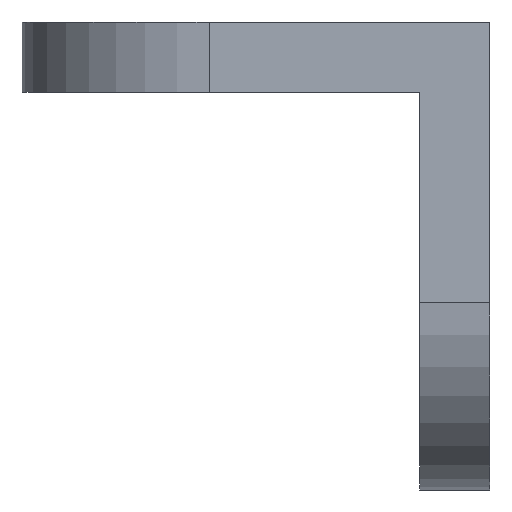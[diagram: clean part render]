
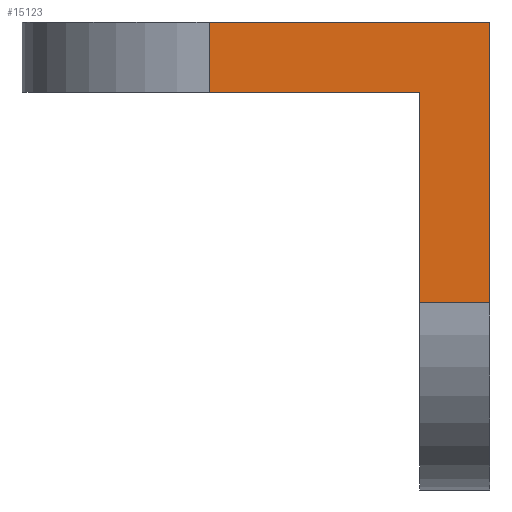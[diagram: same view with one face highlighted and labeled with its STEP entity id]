
A CAD part, left-side view. The second image highlights one B-rep face of the part: STEP entity #15123.
In plain terms, the highlighted planar face has unit normal (-1, 0, 0).
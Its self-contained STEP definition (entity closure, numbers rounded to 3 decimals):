
#149 = VERTEX_POINT ( 'NONE', #18207 ) ;
#863 = EDGE_CURVE ( 'NONE', #17804, #10187, #8484, .T. ) ;
#878 = DIRECTION ( 'NONE',  ( 0., 0., -1. ) ) ;
#1727 = LINE ( 'NONE', #3661, #22516 ) ;
#3254 = PLANE ( 'NONE',  #6715 ) ;
#3661 = CARTESIAN_POINT ( 'NONE',  ( -16., 24., 18. ) ) ;
#4320 = EDGE_CURVE ( 'NONE', #31378, #19348, #5148, .T. ) ;
#4657 = VECTOR ( 'NONE', #6647, 1000. ) ;
#5148 = LINE ( 'NONE', #22439, #18731 ) ;
#5948 = LINE ( 'NONE', #10286, #33077 ) ;
#6325 = CARTESIAN_POINT ( 'NONE',  ( -16., 24., 24. ) ) ;
#6647 = DIRECTION ( 'NONE',  ( 0., 0., 1. ) ) ;
#6715 = AXIS2_PLACEMENT_3D ( 'NONE', #22223, #14176, #878 ) ;
#6795 = EDGE_CURVE ( 'NONE', #30284, #17804, #1727, .T. ) ;
#8484 = LINE ( 'NONE', #9400, #33871 ) ;
#9400 = CARTESIAN_POINT ( 'NONE',  ( -16., 6., 24. ) ) ;
#10187 = VERTEX_POINT ( 'NONE', #19910 ) ;
#10286 = CARTESIAN_POINT ( 'NONE',  ( -16., 0., 18. ) ) ;
#11551 = ORIENTED_EDGE ( 'NONE', *, *, #4320, .T. ) ;
#11878 = LINE ( 'NONE', #28091, #4657 ) ;
#12004 = CARTESIAN_POINT ( 'NONE',  ( -16., 0., 0. ) ) ;
#12141 = CARTESIAN_POINT ( 'NONE',  ( -16., 24., 18. ) ) ;
#13363 = EDGE_CURVE ( 'NONE', #30284, #149, #5948, .T. ) ;
#14176 = DIRECTION ( 'NONE',  ( 1., 0., 0. ) ) ;
#14944 = ORIENTED_EDGE ( 'NONE', *, *, #13363, .T. ) ;
#15123 = ADVANCED_FACE ( 'NONE', ( #29215 ), #3254, .F. ) ;
#16394 = ORIENTED_EDGE ( 'NONE', *, *, #19497, .T. ) ;
#16586 = ORIENTED_EDGE ( 'NONE', *, *, #32810, .F. ) ;
#17148 = ORIENTED_EDGE ( 'NONE', *, *, #6795, .F. ) ;
#17804 = VERTEX_POINT ( 'NONE', #6325 ) ;
#18207 = CARTESIAN_POINT ( 'NONE',  ( -16., 6., 18. ) ) ;
#18731 = VECTOR ( 'NONE', #33469, 1000. ) ;
#19348 = VERTEX_POINT ( 'NONE', #12004 ) ;
#19497 = EDGE_CURVE ( 'NONE', #19348, #10187, #30362, .T. ) ;
#19910 = CARTESIAN_POINT ( 'NONE',  ( -16., 0., 24. ) ) ;
#20636 = CARTESIAN_POINT ( 'NONE',  ( -16., 0., 0. ) ) ;
#21042 = EDGE_LOOP ( 'NONE', ( #16394, #27215, #17148, #14944, #16586, #11551 ) ) ;
#22201 = CARTESIAN_POINT ( 'NONE',  ( -16., 6., 0. ) ) ;
#22223 = CARTESIAN_POINT ( 'NONE',  ( -16., 6., 0. ) ) ;
#22439 = CARTESIAN_POINT ( 'NONE',  ( -16., 6., 0. ) ) ;
#22516 = VECTOR ( 'NONE', #28217, 1000. ) ;
#24830 = VECTOR ( 'NONE', #28372, 1000. ) ;
#27215 = ORIENTED_EDGE ( 'NONE', *, *, #863, .F. ) ;
#28091 = CARTESIAN_POINT ( 'NONE',  ( -16., 6., 0. ) ) ;
#28217 = DIRECTION ( 'NONE',  ( 0., 0., 1. ) ) ;
#28372 = DIRECTION ( 'NONE',  ( 0., 0., 1. ) ) ;
#29003 = DIRECTION ( 'NONE',  ( 0., -1., 0. ) ) ;
#29215 = FACE_OUTER_BOUND ( 'NONE', #21042, .T. ) ;
#30284 = VERTEX_POINT ( 'NONE', #12141 ) ;
#30362 = LINE ( 'NONE', #20636, #24830 ) ;
#31378 = VERTEX_POINT ( 'NONE', #22201 ) ;
#32810 = EDGE_CURVE ( 'NONE', #31378, #149, #11878, .T. ) ;
#33077 = VECTOR ( 'NONE', #29003, 1000. ) ;
#33469 = DIRECTION ( 'NONE',  ( 0., -1., 0. ) ) ;
#33790 = DIRECTION ( 'NONE',  ( 0., -1., 0. ) ) ;
#33871 = VECTOR ( 'NONE', #33790, 1000. ) ;
